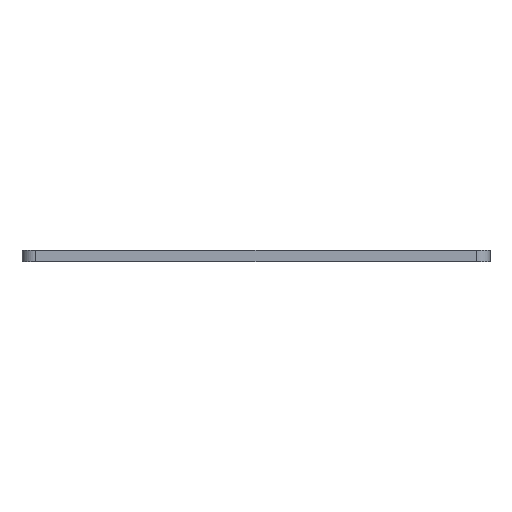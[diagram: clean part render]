
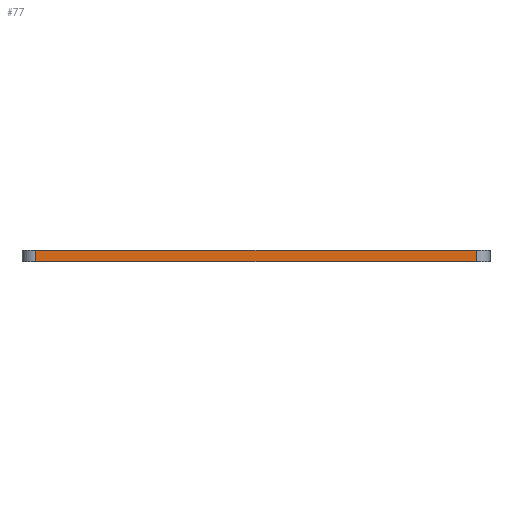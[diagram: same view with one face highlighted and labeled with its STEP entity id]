
A CAD part, left-side view. The second image highlights one B-rep face of the part: STEP entity #77.
In plain terms, the highlighted planar face has unit normal (-1, 0, 0).
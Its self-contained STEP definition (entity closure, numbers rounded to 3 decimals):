
#39 = EDGE_CURVE('',#40,#42,#44,.T.);
#40 = VERTEX_POINT('',#41);
#41 = CARTESIAN_POINT('',(0.013,66.,0.));
#42 = VERTEX_POINT('',#43);
#43 = CARTESIAN_POINT('',(0.013,66.,
    1.6));
#44 = LINE('',#45,#46);
#45 = CARTESIAN_POINT('',(0.013,66.,0.));
#46 = VECTOR('',#47,1.);
#47 = DIRECTION('',(0.,0.,1.));
#77 = ADVANCED_FACE('',(#78),#103,.T.);
#78 = FACE_BOUND('',#79,.T.);
#79 = EDGE_LOOP('',(#80,#90,#96,#97));
#80 = ORIENTED_EDGE('',*,*,#81,.T.);
#81 = EDGE_CURVE('',#82,#84,#86,.T.);
#82 = VERTEX_POINT('',#83);
#83 = CARTESIAN_POINT('',(0.013,2.,0.));
#84 = VERTEX_POINT('',#85);
#85 = CARTESIAN_POINT('',(0.013,2.,
    1.6));
#86 = LINE('',#87,#88);
#87 = CARTESIAN_POINT('',(0.013,2.,0.));
#88 = VECTOR('',#89,1.);
#89 = DIRECTION('',(0.,0.,1.));
#90 = ORIENTED_EDGE('',*,*,#91,.T.);
#91 = EDGE_CURVE('',#84,#42,#92,.T.);
#92 = LINE('',#93,#94);
#93 = CARTESIAN_POINT('',(0.013,2.,
    1.6));
#94 = VECTOR('',#95,1.);
#95 = DIRECTION('',(0.,1.,0.));
#96 = ORIENTED_EDGE('',*,*,#39,.F.);
#97 = ORIENTED_EDGE('',*,*,#98,.F.);
#98 = EDGE_CURVE('',#82,#40,#99,.T.);
#99 = LINE('',#100,#101);
#100 = CARTESIAN_POINT('',(0.013,2.,0.));
#101 = VECTOR('',#102,1.);
#102 = DIRECTION('',(0.,1.,0.));
#103 = PLANE('',#104);
#104 = AXIS2_PLACEMENT_3D('',#105,#106,#107);
#105 = CARTESIAN_POINT('',(0.013,2.,0.));
#106 = DIRECTION('',(-1.,0.,0.));
#107 = DIRECTION('',(0.,1.,0.));
